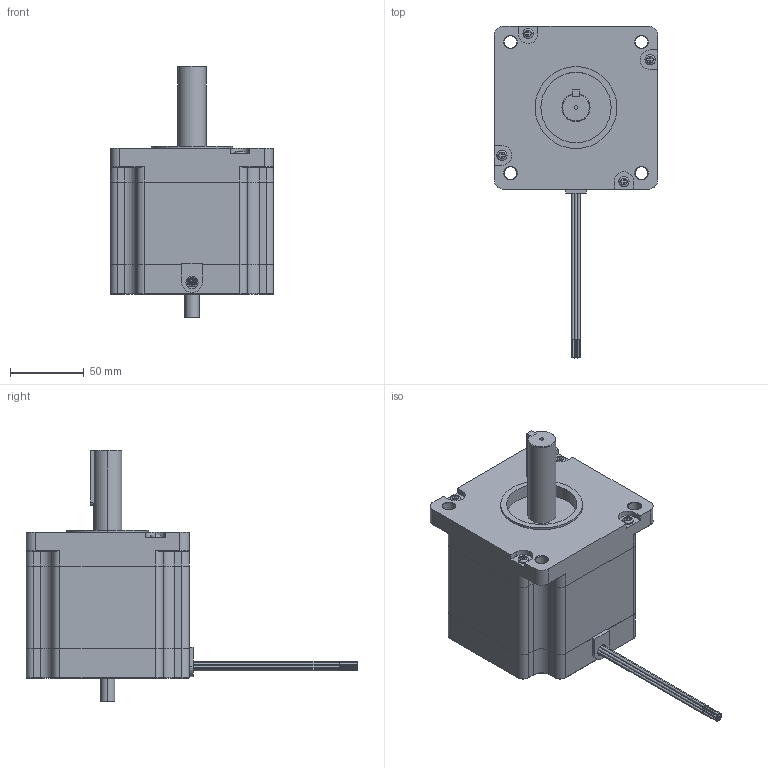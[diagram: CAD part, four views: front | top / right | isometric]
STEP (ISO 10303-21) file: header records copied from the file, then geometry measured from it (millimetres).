
FILE_DESCRIPTION (( 'STEP AP214' ), '1' );
FILE_NAME ('42Y002D-LW8.STEP', '2010-06-11T15:37:21', ( 'Tim Raines' ), ( 'Anaheim Automation' ), 'SwSTEP 2.0', 'SolidWorks 2010', '' );
FILE_SCHEMA (( 'AUTOMOTIVE_DESIGN' ));
Length unit declared in the file: inch
Products named in the file (1): 42Y002D-LW8
Bounding box: 110.62 x 224.92 x 170.43 mm (x, y, z)
Volume: 1101461.4 mm3; surface area: 79268.5 mm2
Topology: 1 solids, 1 shells, 372 faces, 933 edges, 587 vertices
Faces by surface type: plane 178, cylinder 125, cone 61, torus 8
Entity records: 16056 total; most frequent: CARTESIAN_POINT 2195, DIRECTION 1918, ORIENTED_EDGE 1842, EDGE_CURVE 921, AXIS2_PLACEMENT_3D 694, VERTEX_POINT 587, VECTOR 530, LINE 530
